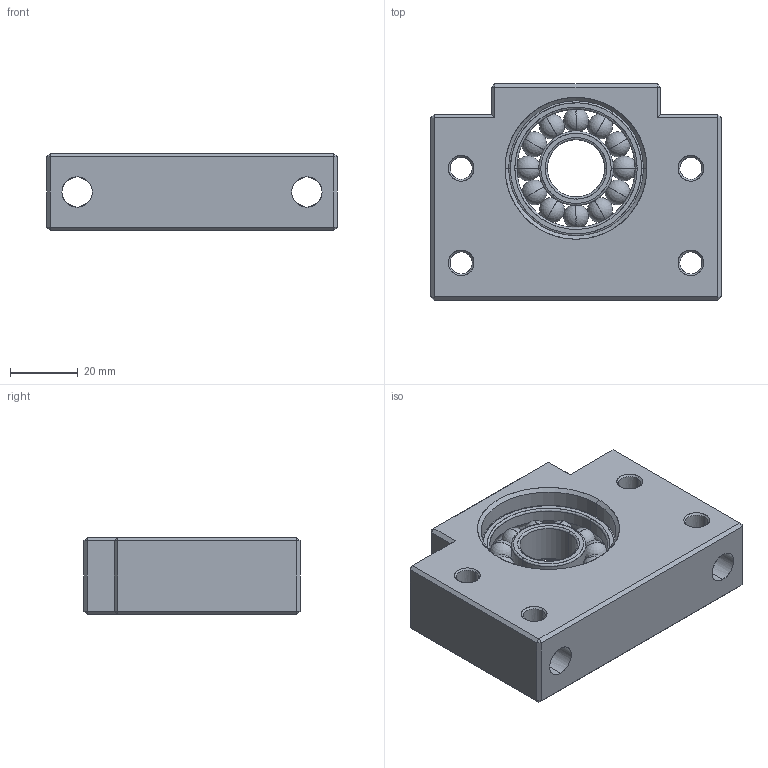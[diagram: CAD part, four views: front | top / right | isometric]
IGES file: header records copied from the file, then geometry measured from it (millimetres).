
Start section: SolidWorks IGES file using analytic representation for surfaces
Bounding box: 86 x 64 x 23 mm (x, y, z)
Surface area: 26353.5 mm2 (no closed solid volume)
Topology: 0 solids, 0 shells, 152 faces, 2180 edges, 2136 vertices
Faces by surface type: revolution 84, bspline 68
